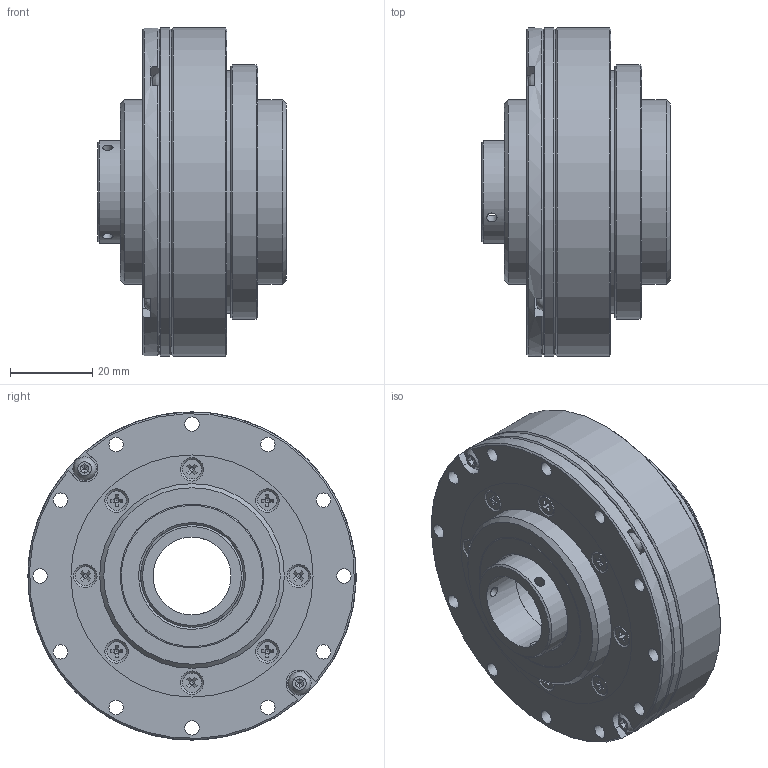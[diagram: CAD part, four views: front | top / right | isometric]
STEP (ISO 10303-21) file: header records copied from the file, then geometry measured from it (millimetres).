
FILE_DESCRIPTION (( 'STEP AP203' ), '1' );
FILE_NAME ('LHD-17-XXX-C（CL）-III.STEP', '2025-01-08T10:28:25', ( '' ), ( '' ), 'SwSTEP 2.0', 'SolidWorks 2023', '' );
FILE_SCHEMA (( 'CONFIG_CONTROL_DESIGN' ));
Length unit declared in the file: millimetre
Products named in the file (1): LHD-17-XXX-C（CL）-III
Bounding box: 46 x 80 x 80 mm (x, y, z)
Volume: 105530.8 mm3; surface area: 100137.3 mm2
Topology: 90 solids, 90 shells, 1219 faces, 2751 edges, 1729 vertices
Faces by surface type: plane 577, cylinder 327, cone 181, bspline 134
Full cylindrical faces by diameter (mm): 1.6 x12, 2 x12, 2.05 x8, 2.4 x12, 2.5 x27, 3 x12, 3.5 x66, 3.8 x12, 4.5 x12, 4.7 x8, 19 x2, 19.5 x1, 23.9 x1, 24 x1, 24.5 x1, 24.8 x1, 25 x7, 27 x1, 27.882 x4, 28 x1, 29 x2, 29.2 x1, 30 x1, 30.295 x1, 30.3 x1, 32 x3, 32.5 x1, 32.53 x2, 33.23 x1, 34 x1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
Entity records: 36905 total; most frequent: CARTESIAN_POINT 12556, DIRECTION 5074, ORIENTED_EDGE 4174, AXIS2_PLACEMENT_3D 2139, EDGE_CURVE 2087, EDGE_LOOP 1980, VERTEX_POINT 1563, FACE_OUTER_BOUND 1488
